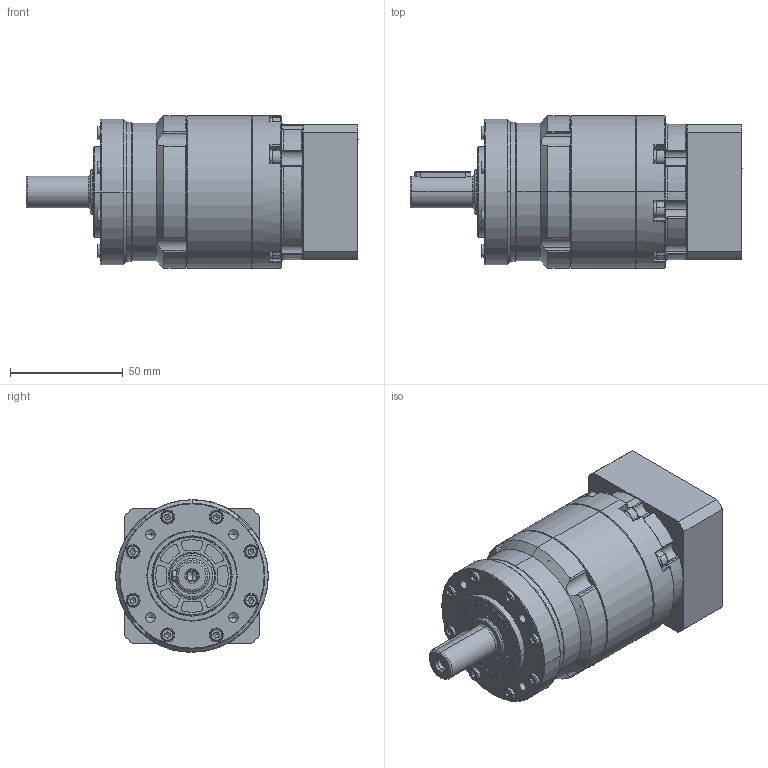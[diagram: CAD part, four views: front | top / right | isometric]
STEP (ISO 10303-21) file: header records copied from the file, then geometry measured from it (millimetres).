
FILE_DESCRIPTION (( 'STEP AP214' ), '1' );
FILE_NAME ('FE060-L2-S2-P2 14-50-70-M4.STEP', '2024-01-23T02:40:46', ( '微软用户' ), ( '微软中国' ), 'SwSTEP 2.0', 'SolidWorks 2018', '' );
FILE_SCHEMA (( 'AUTOMOTIVE_DESIGN' ));
Length unit declared in the file: millimetre
Products named in the file (17): spring lock washers--normal type gb_GB_FASTENER_WASHER_SW 3; 输入太阳轮FE060D14外形图; FE060一级齿圈外形图; hexagon socket head cap screws gb_GB_FASTENER_SCREWS_HSHCS M4X20-N; 笢潔楊擘 FE060俋倛芞; 萇儂楊擘FE060-D50-M5-70F60H24.5; plain parallel keys_GB_CONNECTING_PIECE_KEYS_CSK 5X25; 標杶FE060D17; 蚐猾20X35X5; 一级输出轴FE060外形图; FE060圆输出端盖外形图; FE060-L2-S2-P2 14-50-70-M4; FE060二级齿圈外形图; spring lock washers--normal type gb_GB_FASTENER_WASHER_SW 4; hexagon socket head cap screws gb_GB_FASTENER_SCREWS_HSHCS M5X16-N; hex socket set screws with flat point gb_GB_FASTENER_SCREWS_HSFP M10X8-N; hexagon socket head cap screws gb_GB_FASTENER_SCREWS_HSHCS M3X16-N
Assembly tree (52 placements, depth 2):
  FE060-L2-S2-P2 14-50-70-M4
    FE060一级齿圈外形图
    一级输出轴FE060外形图
    输入太阳轮FE060D14外形图
    萇儂楊擘FE060-D50-M5-70F60H24.5
    標杶FE060D17
    hexagon socket head cap screws gb_GB_FASTENER_SCREWS_HSHCS M5X16-N
    hexagon socket head cap screws gb_GB_FASTENER_SCREWS_HSHCS M4X20-N  x12
    spring lock washers--normal type gb_GB_FASTENER_WASHER_SW 4  x12
    hex socket set screws with flat point gb_GB_FASTENER_SCREWS_HSFP M10X8-N
    蚐猾20X35X5
    plain parallel keys_GB_CONNECTING_PIECE_KEYS_CSK 5X25
    hexagon socket head cap screws gb_GB_FASTENER_SCREWS_HSHCS M3X16-N  x8
    spring lock washers--normal type gb_GB_FASTENER_WASHER_SW 3  x8
    FE060圆输出端盖外形图
    FE060二级齿圈外形图
    笢潔楊擘 FE060俋倛芞
Bounding box: 147 x 67.5 x 67.5 mm (x, y, z)
Volume: 337338.6 mm3; surface area: 94009.7 mm2
Topology: 52 solids, 52 shells, 1505 faces, 3680 edges, 2283 vertices
Faces by surface type: cylinder 573, plane 565, cone 275, torus 80, bspline 12
Entity records: 37816 total; most frequent: CARTESIAN_POINT 5977, DIRECTION 4872, ORIENTED_EDGE 4304, EDGE_CURVE 2152, AXIS2_PLACEMENT_3D 1993, VERTEX_POINT 1379, CIRCLE 1075, EDGE_LOOP 1009
